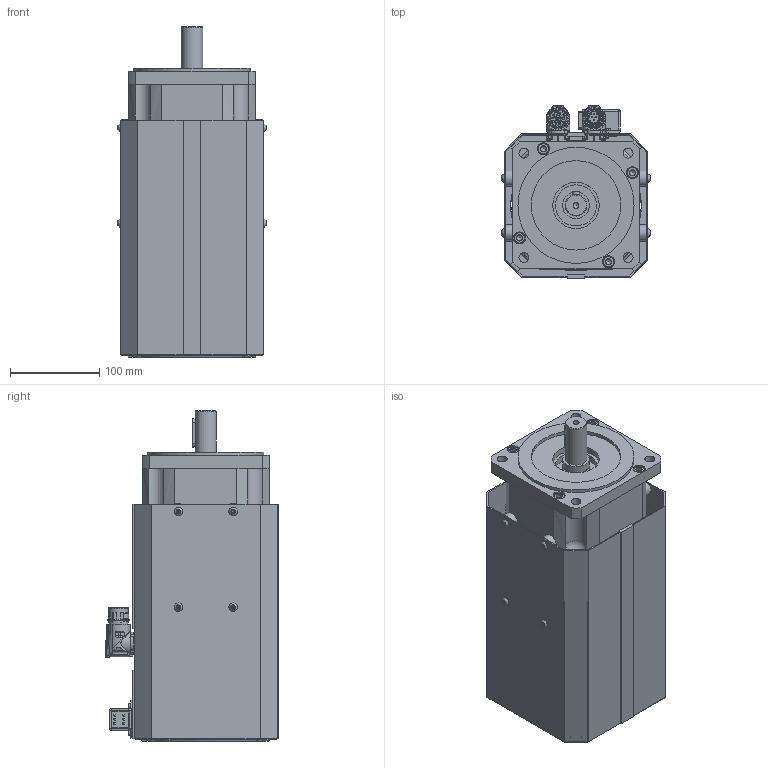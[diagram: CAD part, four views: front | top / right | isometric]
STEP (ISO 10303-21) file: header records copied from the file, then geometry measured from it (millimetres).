
FILE_DESCRIPTION(/* description */ (''),/* implementation_level */ '2;1');
FILE_NAME(/* name */ 'C:\Users\Public\Documents\Autodesk\Inventor LT 2014\Workspace\Motori Sito WEB\TG_5\DSF5_5\STEP_DSF5_5x\DSF5_52_x097.stp',/* time_stamp */ '2021-04-07T14:54:49+02:00',/* author */ ('marcor'),/* organization */ (''),/* preprocessor_version */ 'ST-DEVELOPER v15.2',/* originating_system */ 'Autodesk Inventor LT ',/* authorisation */ '');
FILE_SCHEMA (('AUTOMOTIVE_DESIGN { 1 0 10303 214 3 1 1 }'));
Products named in the file (1): DSF5_52_x097
Bounding box: 165.9 x 194.2 x 370.2 mm (x, y, z)
Volume: 4604950.9 mm3; surface area: 705052.8 mm2
Topology: 26 solids, 45 shells, 2105 faces, 5268 edges, 3455 vertices
Faces by surface type: plane 798, cylinder 588, cone 400, bspline 167, torus 104, sphere 48
Full cylindrical faces by diameter (mm): 1.2 x12, 2.013 x8, 2.2 x4, 2.224 x8, 2.233 x6, 2.4 x6, 2.5 x8, 2.88 x8, 3 x4, 3.26 x8, 3.5 x10, 4 x4, 4.134 x8, 4.5 x10, 4.8 x8, 4.917 x4, 5 x8, 5.5 x13, 5.9 x2, 6 x4, 6.5 x12, 6.647 x9, 7.5 x4, 8 x8, 8.5 x8, 10 x4, 11 x8, 12 x1, 13 x8, 13.5 x8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
Entity records: 71120 total; most frequent: CARTESIAN_POINT 23428, ORIENTED_EDGE 9328, DIRECTION 9047, EDGE_CURVE 4620, AXIS2_PLACEMENT_3D 3656, VERTEX_POINT 3263, EDGE_LOOP 2853, ADVANCED_FACE 2105
